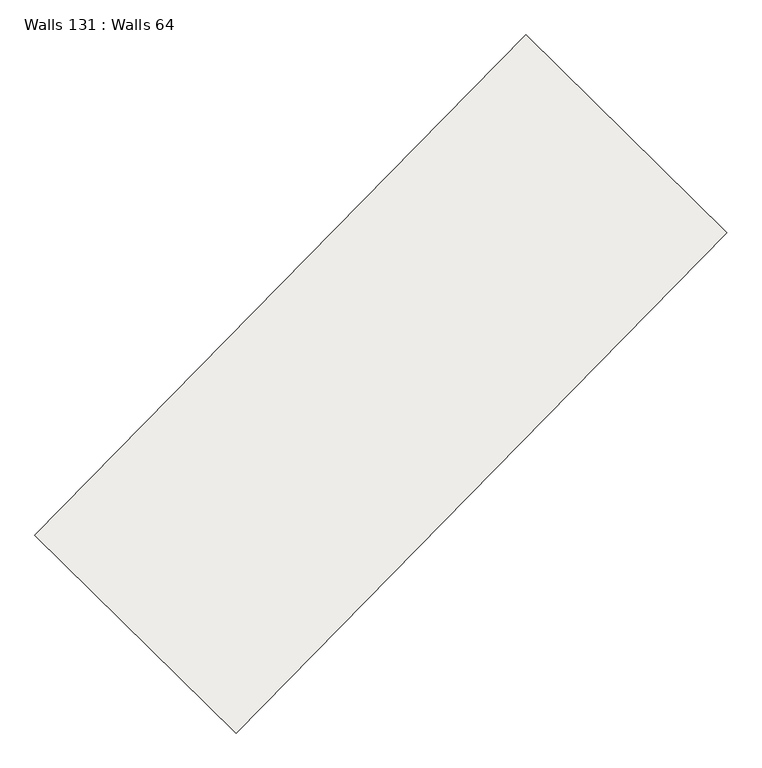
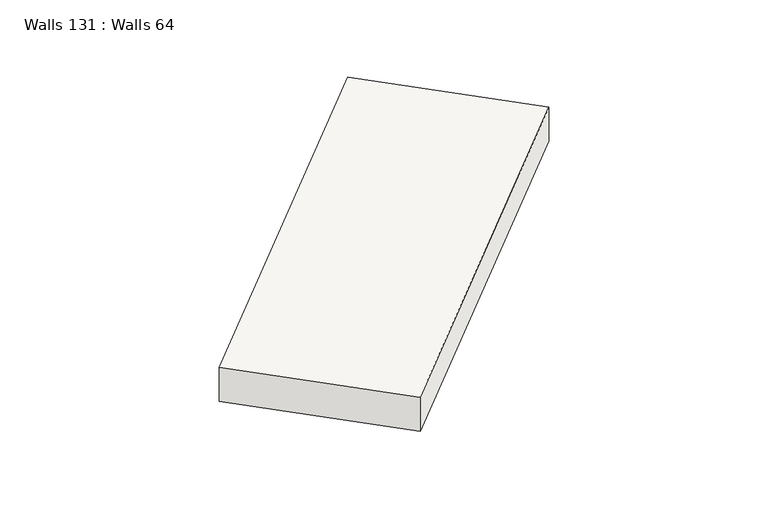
"""IFC4 building model written with IfcOpenShell, lengths in millimetres: slab geometry, Walls 131 : Walls 64."""

from ifc_helpers import new_model, si_unit, frame, origin, place, context, project, spatial, polyline, outline, extrude, source, transform, mapped, element, save


def walls_131_walls_64_69320efb(model_context):
    return source(origin(), model_context, "Body", "SweptSolid", [
        extrude(outline(polyline([(-350.0, 0.0), (350.0, 0.0), (270.0, -8700.0000009), (-430.0, -8700.0000009), (-350.0, 0.0)])), frame((6072.0407797, -153014.6031357, 638530.0), z_axis=(-0.713736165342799, 0.7004146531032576, 0.0), x_axis=(0.0, 0.0, 1.0)), (0.0, 0.0, 1.0), 3499.999995),
    ])


if __name__ == "__main__":
    model = new_model("IFC4")
    model_context = context("Model", 3, world=origin())
    ifc_project = project(units=[si_unit("LENGTHUNIT", "METRE", prefix="MILLI")], contexts=[model_context])
    site = spatial("IfcSite", under=ifc_project)
    building = spatial("IfcBuilding", under=site)
    placement = place(None, origin())
    walls_131_walls_64_shape = walls_131_walls_64_69320efb(model_context)
    element("IfcSlab", 1, ObjectType="Walls 131 : Walls 64", at=placement, inside=building, context=model_context, shape_type="MappedRepresentation", body=[
        mapped(walls_131_walls_64_shape, transform((0.0, 0.0, 0.0), x_axis=(1.0, 0.0, 0.0), y_axis=(0.0, 1.0, 0.0), z_axis=(0.0, 0.0, 1.0))),
    ])
    save(model, "model.ifc")
